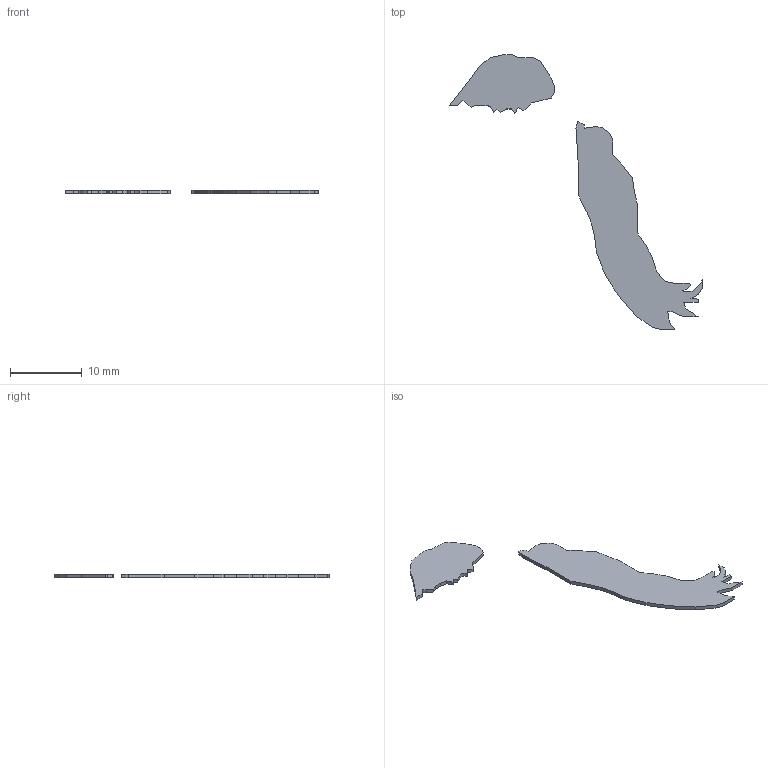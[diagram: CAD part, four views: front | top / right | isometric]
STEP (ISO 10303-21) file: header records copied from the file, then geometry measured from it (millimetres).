
FILE_DESCRIPTION(('STEP AP203'), '1');
FILE_NAME('ïîêåìîí 002 öâåò ÷åðíûé', '', ('UNSPECIFIED'), ('UNSPECIFIED'), 'ASCON STEP Converter 1.3', 'ASCON Math Kernel', '');
FILE_SCHEMA(('CONFIG_CONTROL_DESIGN'));
Length unit declared in the file: millimetre
Bounding box: 35.3 x 38.27 x 0.5 mm (x, y, z)
Volume: 136.2 mm3; surface area: 609 mm2
Topology: 2 solids, 2 shells, 89 faces, 255 edges, 170 vertices
Faces by surface type: plane 89
Entity records: 3611 total; most frequent: CARTESIAN_POINT 515, ORIENTED_EDGE 510, DIRECTION 435, EDGE_CURVE 255, LINE 255, VECTOR 255, VERTEX_POINT 170, COLOUR_RGB 91
